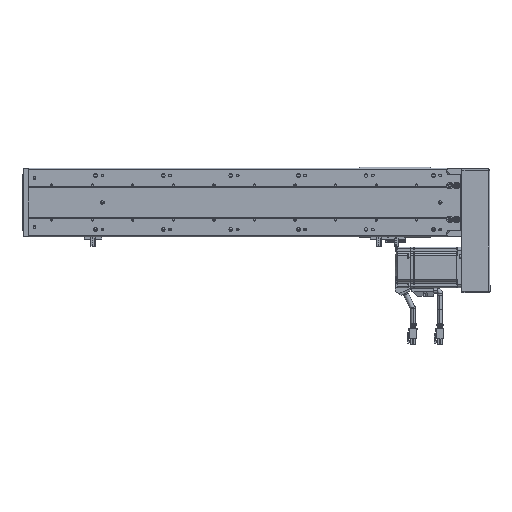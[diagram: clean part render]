
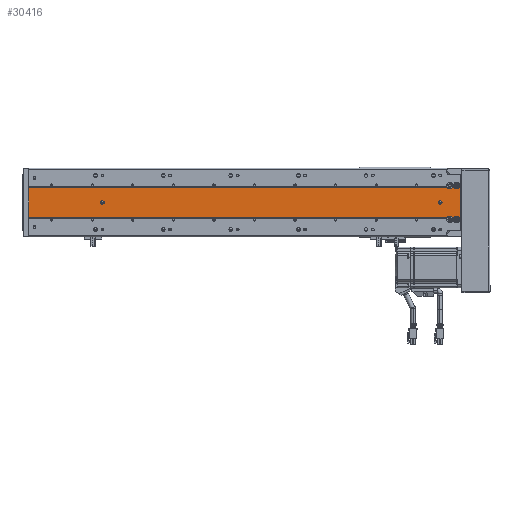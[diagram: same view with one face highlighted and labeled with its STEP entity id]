
A CAD part, front view. The second image highlights one B-rep face of the part: STEP entity #30416.
In plain terms, the highlighted planar face has unit normal (0, -1, 0).
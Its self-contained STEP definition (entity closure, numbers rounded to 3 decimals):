
#2338 = EDGE_CURVE ( 'NONE', #37195, #37193, #3651, .T. ) ;
#2433 = EDGE_CURVE ( 'NONE', #37197, #37201, #3804, .T. ) ;
#2863 = EDGE_CURVE ( 'NONE', #37537, #37551, #4220, .T. ) ;
#2910 = EDGE_CURVE ( 'NONE', #41303, #41343, #4212, .T. ) ;
#3167 = EDGE_CURVE ( 'NONE', #37195, #37201, #83023, .T. ) ;
#3171 = EDGE_CURVE ( 'NONE', #37197, #91159, #83039, .T. ) ;
#3651 = CIRCLE ( 'NONE', #28611, 4.75 ) ;
#3804 = CIRCLE ( 'NONE', #28703, 4.75 ) ;
#4212 = CIRCLE ( 'NONE', #28808, 2.5 ) ;
#4220 = CIRCLE ( 'NONE', #28785, 2.5 ) ;
#24679 = CARTESIAN_POINT ( 'NONE',  ( 142.903, 89.548, 109. ) ) ;
#24697 = CARTESIAN_POINT ( 'NONE',  ( 137.903, 89.548, 109. ) ) ;
#25414 = EDGE_CURVE ( 'NONE', #91233, #91205, #83107, .T. ) ;
#25432 = EDGE_CURVE ( 'NONE', #91191, #91189, #83082, .T. ) ;
#25463 = EDGE_CURVE ( 'NONE', #91196, #91179, #83120, .T. ) ;
#26663 = EDGE_CURVE ( 'NONE', #41343, #41303, #79053, .T. ) ;
#26672 = EDGE_CURVE ( 'NONE', #91191, #90362, #79088, .T. ) ;
#26674 = EDGE_CURVE ( 'NONE', #91205, #91196, #79017, .T. ) ;
#26676 = EDGE_CURVE ( 'NONE', #91189, #37193, #79075, .T. ) ;
#26717 = EDGE_CURVE ( 'NONE', #37551, #37537, #79133, .T. ) ;
#26721 = EDGE_CURVE ( 'NONE', #91179, #91159, #79171, .T. ) ;
#26740 = EDGE_CURVE ( 'NONE', #90362, #91233, #79113, .T. ) ;
#28611 = AXIS2_PLACEMENT_3D ( 'NONE', #85141, #85142, #85120 ) ;
#28703 = AXIS2_PLACEMENT_3D ( 'NONE', #85288, #85296, #85313 ) ;
#28785 = AXIS2_PLACEMENT_3D ( 'NONE', #88530, #88536, #88557 ) ;
#28808 = AXIS2_PLACEMENT_3D ( 'NONE', #83654, #83631, #83643 ) ;
#28965 = AXIS2_PLACEMENT_3D ( 'NONE', #77056, #77027, #77058 ) ;
#28976 = AXIS2_PLACEMENT_3D ( 'NONE', #77022, #77031, #77101 ) ;
#30416 = ADVANCED_FACE ( 'NONE', ( #53876, #53816, #53910 ), #51544, .F. ) ;
#37193 = VERTEX_POINT ( 'NONE', #62798 ) ;
#37195 = VERTEX_POINT ( 'NONE', #62898 ) ;
#37197 = VERTEX_POINT ( 'NONE', #62811 ) ;
#37201 = VERTEX_POINT ( 'NONE', #62803 ) ;
#37537 = VERTEX_POINT ( 'NONE', #63460 ) ;
#37551 = VERTEX_POINT ( 'NONE', #63581 ) ;
#37816 = ORIENTED_EDGE ( 'NONE', *, *, #26663, .F. ) ;
#37819 = ORIENTED_EDGE ( 'NONE', *, *, #25432, .F. ) ;
#37843 = ORIENTED_EDGE ( 'NONE', *, *, #2433, .T. ) ;
#37856 = ORIENTED_EDGE ( 'NONE', *, *, #2863, .F. ) ;
#37869 = ORIENTED_EDGE ( 'NONE', *, *, #3171, .F. ) ;
#37876 = ORIENTED_EDGE ( 'NONE', *, *, #26740, .T. ) ;
#37879 = ORIENTED_EDGE ( 'NONE', *, *, #26676, .F. ) ;
#37880 = ORIENTED_EDGE ( 'NONE', *, *, #3167, .F. ) ;
#37883 = ORIENTED_EDGE ( 'NONE', *, *, #2338, .T. ) ;
#37891 = ORIENTED_EDGE ( 'NONE', *, *, #25463, .T. ) ;
#37898 = ORIENTED_EDGE ( 'NONE', *, *, #26674, .T. ) ;
#37903 = ORIENTED_EDGE ( 'NONE', *, *, #26717, .F. ) ;
#37904 = ORIENTED_EDGE ( 'NONE', *, *, #25414, .T. ) ;
#37905 = ORIENTED_EDGE ( 'NONE', *, *, #2910, .F. ) ;
#37909 = ORIENTED_EDGE ( 'NONE', *, *, #26721, .T. ) ;
#37918 = ORIENTED_EDGE ( 'NONE', *, *, #26672, .T. ) ;
#41303 = VERTEX_POINT ( 'NONE', #24697 ) ;
#41343 = VERTEX_POINT ( 'NONE', #24679 ) ;
#43741 = EDGE_LOOP ( 'NONE', ( #37903, #37856 ) ) ;
#43747 = EDGE_LOOP ( 'NONE', ( #37880, #37883, #37879, #37819, #37918, #37876, #37904, #37898, #37891, #37909, #37869, #37843 ) ) ;
#43817 = EDGE_LOOP ( 'NONE', ( #37816, #37905 ) ) ;
#47477 = AXIS2_PLACEMENT_3D ( 'NONE', #77130, #77146, #77192 ) ;
#47568 = AXIS2_PLACEMENT_3D ( 'NONE', #77227, #77273, #77266 ) ;
#51478 = DIRECTION ( 'NONE',  ( 0., 1., 0. ) ) ;
#51488 = CARTESIAN_POINT ( 'NONE',  ( 161.989, 89.548, 639. ) ) ;
#51492 = DIRECTION ( 'NONE',  ( -1., 0., 0. ) ) ;
#51544 = PLANE ( 'NONE',  #52473 ) ;
#52473 = AXIS2_PLACEMENT_3D ( 'NONE', #51488, #51478, #51492 ) ;
#53816 = FACE_BOUND ( 'NONE', #43817, .T. ) ;
#53876 = FACE_BOUND ( 'NONE', #43741, .T. ) ;
#53910 = FACE_OUTER_BOUND ( 'NONE', #43747, .T. ) ;
#62798 = CARTESIAN_POINT ( 'NONE',  ( 161.989, 89.548, 636.302 ) ) ;
#62803 = CARTESIAN_POINT ( 'NONE',  ( 161.989, 89.548, 626.302 ) ) ;
#62811 = CARTESIAN_POINT ( 'NONE',  ( 161.989, 89.548, 619.698 ) ) ;
#62898 = CARTESIAN_POINT ( 'NONE',  ( 161.989, 89.548, 629.698 ) ) ;
#63460 = CARTESIAN_POINT ( 'NONE',  ( 137.903, 89.548, 609. ) ) ;
#63581 = CARTESIAN_POINT ( 'NONE',  ( 142.903, 89.548, 609. ) ) ;
#77022 = CARTESIAN_POINT ( 'NONE',  ( 140.403, 89.548, 109. ) ) ;
#77027 = DIRECTION ( 'NONE',  ( 0., 1., 0. ) ) ;
#77031 = DIRECTION ( 'NONE',  ( 0., -1., 0. ) ) ;
#77037 = DIRECTION ( 'NONE',  ( 0., 0., -1. ) ) ;
#77056 = CARTESIAN_POINT ( 'NONE',  ( 115.403, 89.548, 623. ) ) ;
#77058 = DIRECTION ( 'NONE',  ( -1., 0., 0. ) ) ;
#77082 = CARTESIAN_POINT ( 'NONE',  ( 118.817, 89.548, 639. ) ) ;
#77087 = DIRECTION ( 'NONE',  ( 0., 0., -1. ) ) ;
#77094 = CARTESIAN_POINT ( 'NONE',  ( 161.989, 89.548, 639. ) ) ;
#77101 = DIRECTION ( 'NONE',  ( 1., 0., 0. ) ) ;
#77130 = CARTESIAN_POINT ( 'NONE',  ( 140.403, 89.548, 609. ) ) ;
#77136 = CARTESIAN_POINT ( 'NONE',  ( 161.989, 89.548, 0. ) ) ;
#77146 = DIRECTION ( 'NONE',  ( 0., -1., 0. ) ) ;
#77173 = DIRECTION ( 'NONE',  ( 1., 0., 0. ) ) ;
#77192 = DIRECTION ( 'NONE',  ( 1., 0., 0. ) ) ;
#77227 = CARTESIAN_POINT ( 'NONE',  ( 115.403, 89.548, 633. ) ) ;
#77266 = DIRECTION ( 'NONE',  ( -1., 0., 0. ) ) ;
#77273 = DIRECTION ( 'NONE',  ( 0., 1., 0. ) ) ;
#79017 = CIRCLE ( 'NONE', #28965, 4.75 ) ;
#79053 = CIRCLE ( 'NONE', #28976, 2.5 ) ;
#79075 = LINE ( 'NONE', #77094, #79096 ) ;
#79088 = LINE ( 'NONE', #77082, #79094 ) ;
#79094 = VECTOR ( 'NONE', #77037, 1000. ) ;
#79096 = VECTOR ( 'NONE', #77087, 1000. ) ;
#79113 = CIRCLE ( 'NONE', #47568, 4.75 ) ;
#79133 = CIRCLE ( 'NONE', #47477, 2.5 ) ;
#79169 = VECTOR ( 'NONE', #77173, 1000. ) ;
#79171 = LINE ( 'NONE', #77136, #79169 ) ;
#82503 = CARTESIAN_POINT ( 'NONE',  ( 118.817, 89.548, 639. ) ) ;
#82537 = CARTESIAN_POINT ( 'NONE',  ( 161.989, 89.548, 639. ) ) ;
#82538 = DIRECTION ( 'NONE',  ( 1., 0., 0. ) ) ;
#82546 = DIRECTION ( 'NONE',  ( 0., 0., -1. ) ) ;
#82587 = CARTESIAN_POINT ( 'NONE',  ( 118.817, 89.548, 639. ) ) ;
#82602 = DIRECTION ( 'NONE',  ( 0., 0., -1. ) ) ;
#83014 = VECTOR ( 'NONE', #83477, 1000. ) ;
#83023 = LINE ( 'NONE', #83453, #83047 ) ;
#83039 = LINE ( 'NONE', #83500, #83014 ) ;
#83047 = VECTOR ( 'NONE', #83463, 1000. ) ;
#83082 = LINE ( 'NONE', #82537, #83096 ) ;
#83096 = VECTOR ( 'NONE', #82538, 1000. ) ;
#83107 = LINE ( 'NONE', #82503, #83118 ) ;
#83118 = VECTOR ( 'NONE', #82546, 1000. ) ;
#83120 = LINE ( 'NONE', #82587, #83129 ) ;
#83129 = VECTOR ( 'NONE', #82602, 1000. ) ;
#83453 = CARTESIAN_POINT ( 'NONE',  ( 161.989, 89.548, 639. ) ) ;
#83463 = DIRECTION ( 'NONE',  ( 0., 0., -1. ) ) ;
#83477 = DIRECTION ( 'NONE',  ( 0., 0., -1. ) ) ;
#83500 = CARTESIAN_POINT ( 'NONE',  ( 161.989, 89.548, 639. ) ) ;
#83631 = DIRECTION ( 'NONE',  ( 0., -1., 0. ) ) ;
#83643 = DIRECTION ( 'NONE',  ( 1., 0., 0. ) ) ;
#83654 = CARTESIAN_POINT ( 'NONE',  ( 140.403, 89.548, 109. ) ) ;
#85120 = DIRECTION ( 'NONE',  ( -1., 0., 0. ) ) ;
#85141 = CARTESIAN_POINT ( 'NONE',  ( 165.403, 89.548, 633. ) ) ;
#85142 = DIRECTION ( 'NONE',  ( 0., 1., 0. ) ) ;
#85288 = CARTESIAN_POINT ( 'NONE',  ( 165.403, 89.548, 623. ) ) ;
#85296 = DIRECTION ( 'NONE',  ( 0., 1., 0. ) ) ;
#85313 = DIRECTION ( 'NONE',  ( -1., 0., 0. ) ) ;
#88530 = CARTESIAN_POINT ( 'NONE',  ( 140.403, 89.548, 609. ) ) ;
#88536 = DIRECTION ( 'NONE',  ( 0., -1., 0. ) ) ;
#88557 = DIRECTION ( 'NONE',  ( 1., 0., 0. ) ) ;
#90362 = VERTEX_POINT ( 'NONE', #92227 ) ;
#91159 = VERTEX_POINT ( 'NONE', #92431 ) ;
#91179 = VERTEX_POINT ( 'NONE', #92494 ) ;
#91189 = VERTEX_POINT ( 'NONE', #92505 ) ;
#91191 = VERTEX_POINT ( 'NONE', #92533 ) ;
#91196 = VERTEX_POINT ( 'NONE', #92539 ) ;
#91205 = VERTEX_POINT ( 'NONE', #92448 ) ;
#91233 = VERTEX_POINT ( 'NONE', #92602 ) ;
#92227 = CARTESIAN_POINT ( 'NONE',  ( 118.817, 89.548, 636.302 ) ) ;
#92431 = CARTESIAN_POINT ( 'NONE',  ( 161.989, 89.548, 0. ) ) ;
#92448 = CARTESIAN_POINT ( 'NONE',  ( 118.817, 89.548, 626.302 ) ) ;
#92494 = CARTESIAN_POINT ( 'NONE',  ( 118.817, 89.548, 0. ) ) ;
#92505 = CARTESIAN_POINT ( 'NONE',  ( 161.989, 89.548, 639. ) ) ;
#92533 = CARTESIAN_POINT ( 'NONE',  ( 118.817, 89.548, 639. ) ) ;
#92539 = CARTESIAN_POINT ( 'NONE',  ( 118.817, 89.548, 619.698 ) ) ;
#92602 = CARTESIAN_POINT ( 'NONE',  ( 118.817, 89.548, 629.698 ) ) ;
